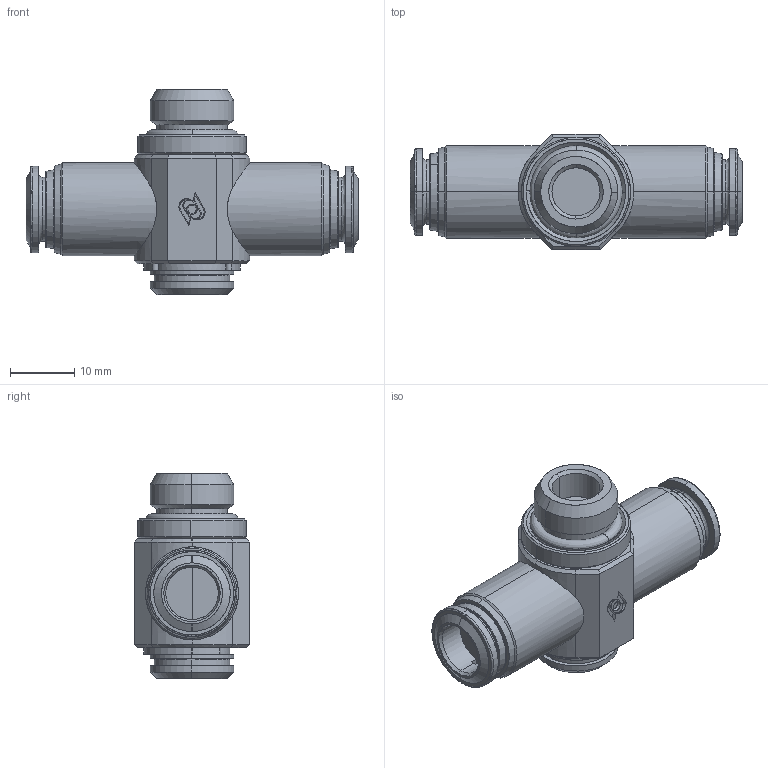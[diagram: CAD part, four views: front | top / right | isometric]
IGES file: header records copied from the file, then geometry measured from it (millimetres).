
Start section: SolidWorks IGES file using analytic representation for surfaces
Global section: file name: K:\Disegni Esecutivi\Serie 57000\ASSIEMI_57000\57560\ASSIEMI_PIENI_57560\5756000006.IGS; native system: SolidWorks 2008; preprocessor: SolidWorks 2008; author: cad02; date: 080220.083611; units: millimetre
Bounding box: 51.8 x 18 x 32 mm (x, y, z)
Surface area: 5026 mm2 (no closed solid volume)
Topology: 0 solids, 0 shells, 229 faces, 2978 edges, 2976 vertices
Faces by surface type: revolution 124, bspline 105
